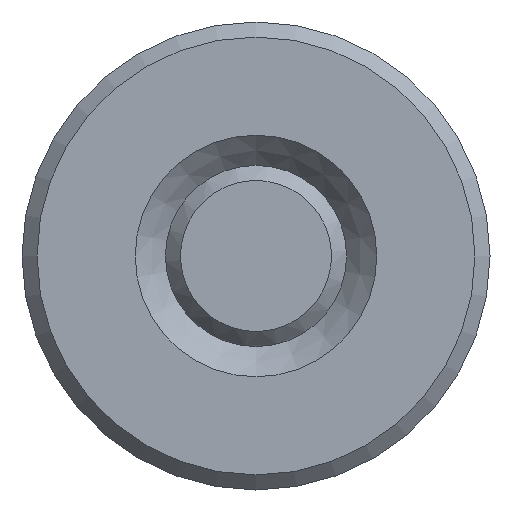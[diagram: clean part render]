
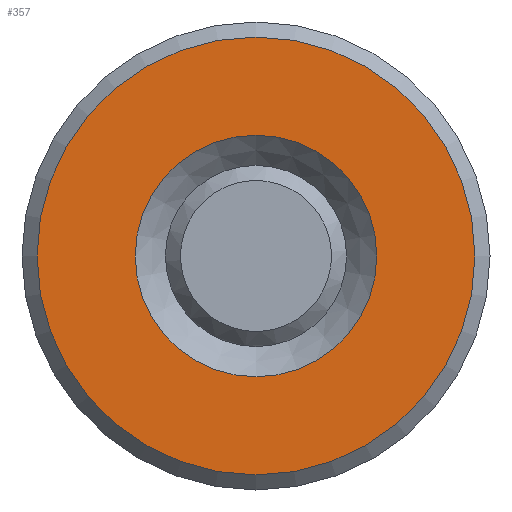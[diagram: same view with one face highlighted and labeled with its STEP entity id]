
A CAD part, front view. The second image highlights one B-rep face of the part: STEP entity #357.
In plain terms, the highlighted planar face has unit normal (0, -1, 0).
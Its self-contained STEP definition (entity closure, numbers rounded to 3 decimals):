
#37=FACE_BOUND('',#82,.T.);
#42=PLANE('',#453);
#56=FACE_OUTER_BOUND('',#81,.T.);
#81=EDGE_LOOP('',(#283));
#82=EDGE_LOOP('',(#284));
#140=CIRCLE('',#447,8.);
#145=CIRCLE('',#454,14.5);
#172=VERTEX_POINT('',#658);
#177=VERTEX_POINT('',#672);
#209=EDGE_CURVE('',#172,#172,#140,.T.);
#216=EDGE_CURVE('',#177,#177,#145,.T.);
#283=ORIENTED_EDGE('',*,*,#216,.F.);
#284=ORIENTED_EDGE('',*,*,#209,.F.);
#357=ADVANCED_FACE('',(#56,#37),#42,.T.);
#447=AXIS2_PLACEMENT_3D('',#659,#532,#533);
#453=AXIS2_PLACEMENT_3D('',#671,#546,#547);
#454=AXIS2_PLACEMENT_3D('',#673,#548,#549);
#532=DIRECTION('center_axis',(0.,-1.,0.));
#533=DIRECTION('ref_axis',(0.,0.,-1.));
#546=DIRECTION('center_axis',(0.,-1.,0.));
#547=DIRECTION('ref_axis',(0.,0.,-1.));
#548=DIRECTION('center_axis',(0.,1.,0.));
#549=DIRECTION('ref_axis',(0.,0.,-1.));
#658=CARTESIAN_POINT('',(0.,0.,8.));
#659=CARTESIAN_POINT('Origin',(0.,0.,0.));
#671=CARTESIAN_POINT('Origin',(0.,0.,15.5));
#672=CARTESIAN_POINT('',(0.,0.,14.5));
#673=CARTESIAN_POINT('Origin',(0.,0.,0.));
